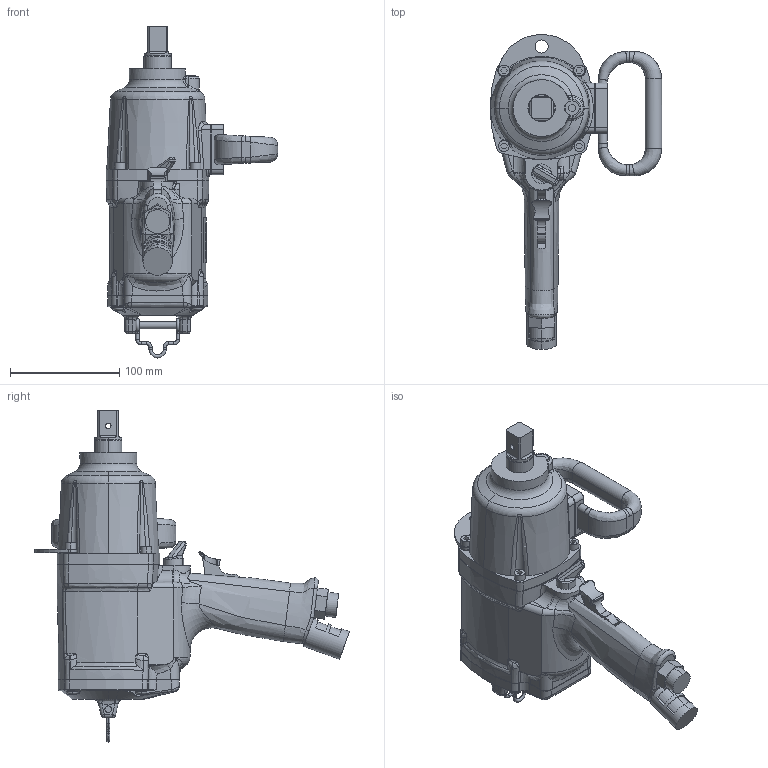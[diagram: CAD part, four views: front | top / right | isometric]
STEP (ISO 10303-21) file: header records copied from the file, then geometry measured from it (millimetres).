
FILE_DESCRIPTION (( 'STEP AP203' ), '1' );
FILE_NAME ('UXR-2000.STEP', '2006-09-04T01:16:03', ( '' ), ( '' ), 'SwSTEP 2.0', 'SolidWorks 2003240', '' );
FILE_SCHEMA (( 'CONFIG_CONTROL_DESIGN' ));
Length unit declared in the file: millimetre
Products named in the file (8): 1763190_UXR-2000_蹬怮椔; 1957909_UXR-2000_蹬怮椔; UXR-2000; 0232124_UXR-2000_蹬怮椔; 1944398_UXR-2000_蹬怮椔; 1940251_UXR-2000_蹬怮椔; 0261077_UXR-2000_蹬怮椔; 1940128_UXR-2000_蹬怮椔
Assembly tree (7 placements, depth 2):
  UXR-2000
    1944398_UXR-2000_蹬怮椔
    0232124_UXR-2000_蹬怮椔
    1763190_UXR-2000_蹬怮椔
    1940128_UXR-2000_蹬怮椔
    1957909_UXR-2000_蹬怮椔
    0261077_UXR-2000_蹬怮椔
    1940251_UXR-2000_蹬怮椔
Bounding box: 157 x 288.59 x 304.3 mm (x, y, z)
Volume: 1957239.7 mm3; surface area: 178909.9 mm2
Topology: 7 solids, 7 shells, 1200 faces, 3147 edges, 2015 vertices
Faces by surface type: plane 466, cylinder 360, bspline 293, torus 56, sphere 13, cone 12
Entity records: 166493 total; most frequent: CARTESIAN_POINT 138688, ORIENTED_EDGE 6282, DIRECTION 4700, EDGE_CURVE 3141, VERTEX_POINT 2015, AXIS2_PLACEMENT_3D 1706, LINE 1288, VECTOR 1288
